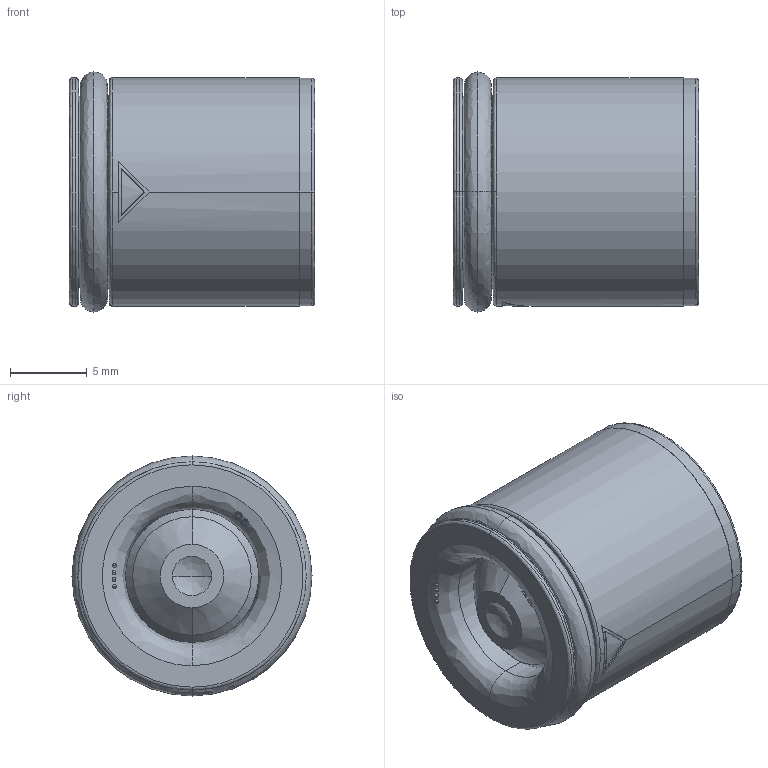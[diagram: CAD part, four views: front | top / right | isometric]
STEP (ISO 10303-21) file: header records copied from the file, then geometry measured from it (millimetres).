
FILE_DESCRIPTION (( 'STEP AP203' ), '1' );
FILE_NAME ('C0015-W149015630.STEP', '2020-04-08T15:00:01', ( '' ), ( '' ), 'SwSTEP 2.0', 'SolidWorks 2017', '' );
FILE_SCHEMA (( 'CONFIG_CONTROL_DESIGN' ));
Length unit declared in the file: metre
Products named in the file (6): PRT_FRVIR_0000007829; PRT_FRVIR_0000007812; PRT_FRVIR_0000007830; Pièce10^ASM_FRVIR_0000002642; C0015-W149015630; FUR_FRVIR_0000001123_10.82x1.78Spl(CO015)
Assembly tree (5 placements, depth 2):
  C0015-W149015630
    PRT_FRVIR_0000007829
    FUR_FRVIR_0000001123_10.82x1.78Spl(CO015)
    PRT_FRVIR_0000007830
    PRT_FRVIR_0000007812
    Pièce10^ASM_FRVIR_0000002642
Bounding box: 16 x 15.66 x 15.66 mm (x, y, z)
Volume: 1451.9 mm3; surface area: 3512.5 mm2
Topology: 5 solids, 5 shells, 442 faces, 1126 edges, 713 vertices
Faces by surface type: bspline 175, plane 175, cylinder 45, cone 43, torus 4
Entity records: 21832 total; most frequent: CARTESIAN_POINT 11813, ORIENTED_EDGE 2232, DIRECTION 1491, EDGE_CURVE 1116, VERTEX_POINT 713, LINE 523, VECTOR 523, EDGE_LOOP 491
